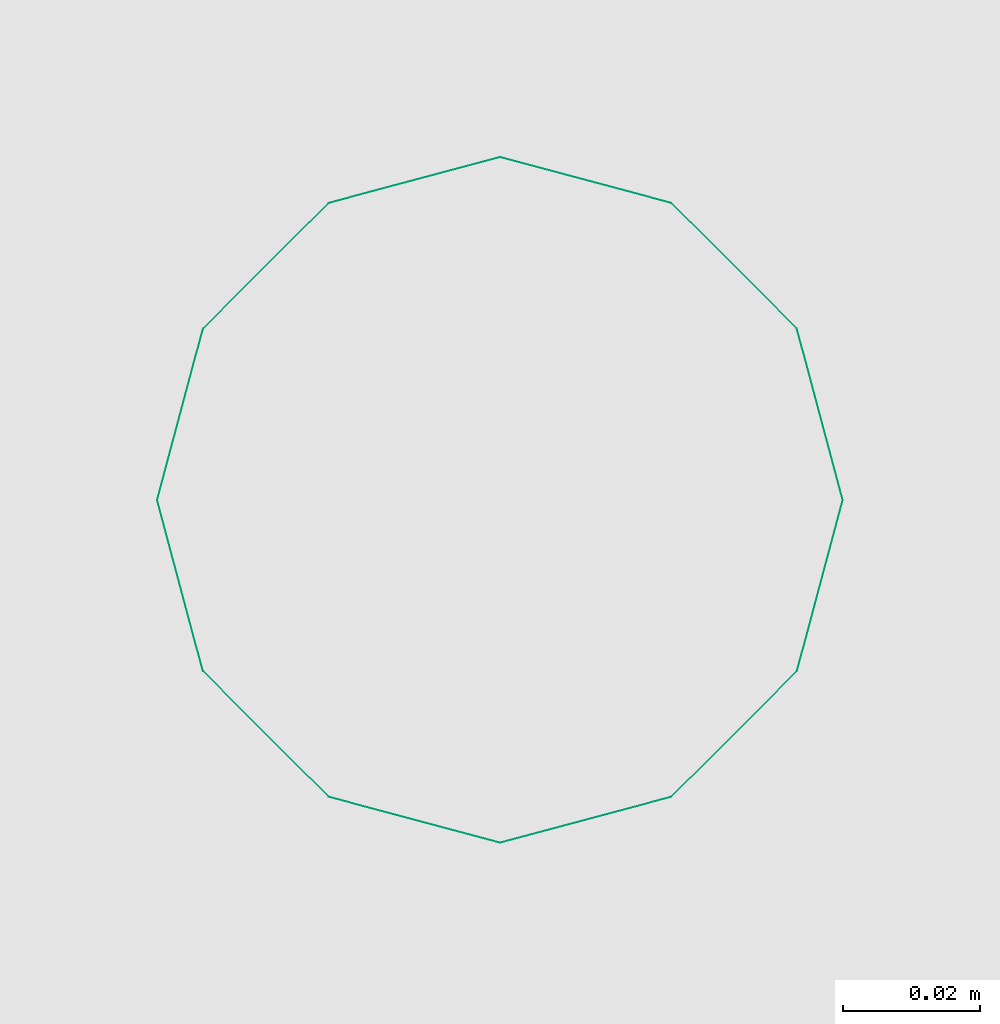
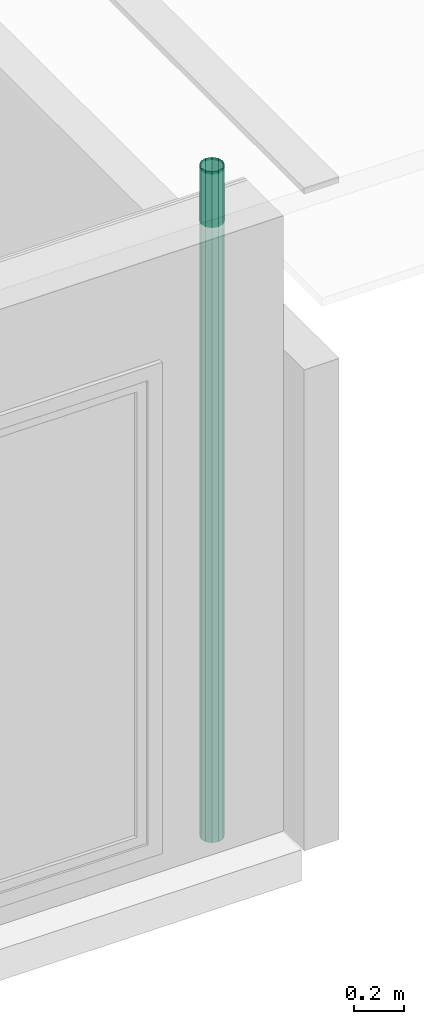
# One storey, part 22 of 25: 1 distribution flow element.
"""IFC2X3 building model written with IfcOpenShell, lengths in millimetres."""

from ifc_helpers import new_model, entity, si_unit, converted_unit, derived_unit, money_unit, direction, frame, origin_with_axes, place, context, subcontext, project, spatial, open_shell, surface_model, source, transform, mapped, type_object, type_shapes, element, save


model = new_model("IFC2X3")

# Units and contexts
model_context = context("Model", 3, precision=0.01, world=origin_with_axes(), true_north=direction((0.0, 1.0)))
body_context = subcontext(model_context, "Body", "Model", "MODEL_VIEW")
ifc_project = project(units=[si_unit("LENGTHUNIT", "METRE", prefix="MILLI"), si_unit("AREAUNIT", "SQUARE_METRE"), si_unit("VOLUMEUNIT", "CUBIC_METRE"), converted_unit("PLANEANGLEUNIT", "DEGREE", entity("IfcPlaneAngleMeasure", 0.0174532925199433), si_unit("PLANEANGLEUNIT", "RADIAN"), dimensions=[0, 0, 0, 0, 0, 0, 0]), money_unit("EUR"), converted_unit("TIMEUNIT", "Year", entity("IfcTimeMeasure", 31557600.0), si_unit("TIMEUNIT", "SECOND"), dimensions=[0, 0, 1, 0, 0, 0, 0]), si_unit("MASSUNIT", "GRAM", prefix="KILO"), si_unit("THERMODYNAMICTEMPERATUREUNIT", "DEGREE_CELSIUS"), si_unit("LUMINOUSINTENSITYUNIT", "LUMEN"), si_unit("ENERGYUNIT", "JOULE", prefix="MEGA"), derived_unit("THERMALCONDUCTANCEUNIT", [(si_unit("POWERUNIT", "WATT"), 1), (si_unit("LENGTHUNIT", "METRE"), -1), (si_unit("THERMODYNAMICTEMPERATUREUNIT", "KELVIN"), -1)]), derived_unit("SPECIFICHEATCAPACITYUNIT", [(si_unit("ENERGYUNIT", "JOULE"), 1), (si_unit("MASSUNIT", "GRAM", prefix="KILO"), -1), (si_unit("THERMODYNAMICTEMPERATUREUNIT", "KELVIN"), -1)]), derived_unit("MASSDENSITYUNIT", [(si_unit("MASSUNIT", "GRAM", prefix="KILO"), 1), (si_unit("VOLUMEUNIT", "CUBIC_METRE"), -1)])], contexts=[model_context])

# Site, building, storey
site_placement = place(None, origin_with_axes())
site = spatial("IfcSite", under=ifc_project, at=site_placement, Name="<site naam>", CompositionType="ELEMENT")
building_placement = place(site_placement, origin_with_axes())
building = spatial("IfcBuilding", under=site, at=building_placement, Name="<Naam gebouw>", CompositionType="ELEMENT")
storey_placement = place(building_placement, frame((0.0, 0.0, 9563.0), z_axis=(0.0, 0.0, 1.0), x_axis=(1.0, 0.0, 0.0)))
storey = spatial("IfcBuildingStorey", under=building, at=storey_placement, Name="03 3e tussenverdieping", CompositionType="ELEMENT", Elevation=9563.0)

# Distribution flow element
valve_type = type_object("IfcValveType", Name="Regenpijp 27", PredefinedType="AIRRELEASE")
shared_shape = source(origin_with_axes(), body_context, "Body", "SurfaceModel", [
    surface_model("IfcShellBasedSurfaceModel", [(-50.0, -30.0, 3246.999999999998), (-50.0, -30.0, 0.0), (-43.30127018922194, -54.99999999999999, 0.0), (-43.30127018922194, -54.99999999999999, 3246.999999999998), (-43.30127018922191, -4.999999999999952, 3246.999999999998), (-43.30127018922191, -4.999999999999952, 0.0), (-25.00000000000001, -73.30127018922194, 0.0), (-25.00000000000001, -73.30127018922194, 3246.999999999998), (-24.99999999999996, 13.30127018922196, 3246.999999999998), (-24.99999999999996, 13.30127018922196, 0.0), (0.0, -80.0, 0.0), (0.0, -80.0, 3246.999999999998), (0.0, 20.0, 3246.999999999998), (0.0, 20.0, 0.0), (24.99999999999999, -73.30127018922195, 0.0), (24.99999999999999, -73.30127018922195, 3246.999999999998), (25.00000000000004, 13.30127018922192, 3246.999999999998), (25.00000000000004, 13.30127018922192, 0.0), (43.30127018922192, -55.00000000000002, 0.0), (43.30127018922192, -55.00000000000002, 3246.999999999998), (43.30127018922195, -5.000000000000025, 3246.999999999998), (43.30127018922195, -5.000000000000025, 0.0), (50.0, -30.00000000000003, 0.0), (50.0, -30.00000000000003, 3246.999999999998)], [open_shell([[[0, 1, 2, 3]], [[4, 5, 1, 0]], [[3, 2, 6, 7]], [[8, 9, 5, 4]], [[7, 6, 10, 11]], [[12, 13, 9, 8]], [[11, 10, 14, 15]], [[16, 17, 13, 12]], [[15, 14, 18, 19]], [[20, 21, 17, 16]], [[19, 18, 22, 23]], [[23, 22, 21, 20]]])]),
])
type_shapes(valve_type, [shared_shape])
distribution_flow_element_placement = place(storey_placement, frame((57895.00000000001, 305.0000000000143, 0.0), z_axis=(0.0, 0.0, 1.0), x_axis=(1.0, 0.0, 0.0)))
element("IfcDistributionFlowElement", 1, at=distribution_flow_element_placement, inside=storey, type_object=valve_type, Name="52_Wasmachine_Lege", context=body_context, shape_type="MappedRepresentation", body=[
    mapped(shared_shape, transform((0.0, 0.0, 0.0))),
])

save(model, "model.ifc")
